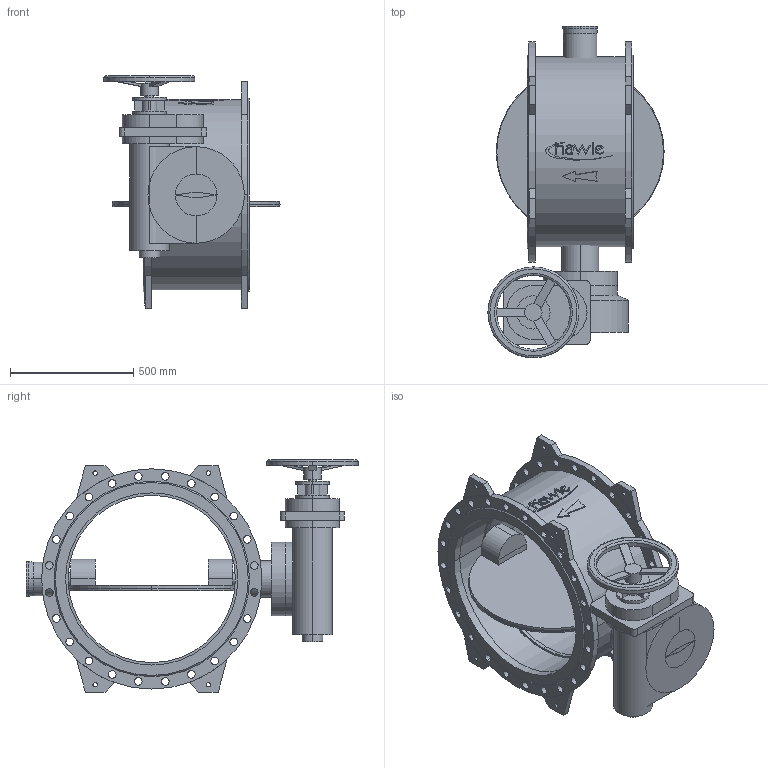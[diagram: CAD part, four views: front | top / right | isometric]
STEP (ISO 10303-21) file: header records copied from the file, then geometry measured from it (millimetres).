
FILE_DESCRIPTION(('STEP AP214'),'1');
FILE_NAME('S:/EK/USER/CAT6/3DHomepage_27-04-2012/neu_08-01-2013/9881K/9881K_PN10_DN700_7800.STP','2013-03-11T15:16:11',(' '),(' '),'Spatial InterOp 3D',' ',' ');
FILE_SCHEMA(('automotive_design'));
Length unit declared in the file: millimetre
Products named in the file (53): 3D-Objekt
Bounding box: 716 x 1349 x 944 mm (x, y, z)
Volume: 113855110.5 mm3; surface area: 7325815.9 mm2
Topology: 53 solids, 53 shells, 475 faces, 1100 edges, 734 vertices
Faces by surface type: cylinder 233, plane 230, cone 8, torus 4
Entity records: 18983 total; most frequent: DIRECTION 2668, CARTESIAN_POINT 2362, ORIENTED_EDGE 2200, EDGE_CURVE 1100, AXIS2_PLACEMENT_3D 1040, VERTEX_POINT 734, EDGE_LOOP 608, LINE 588
